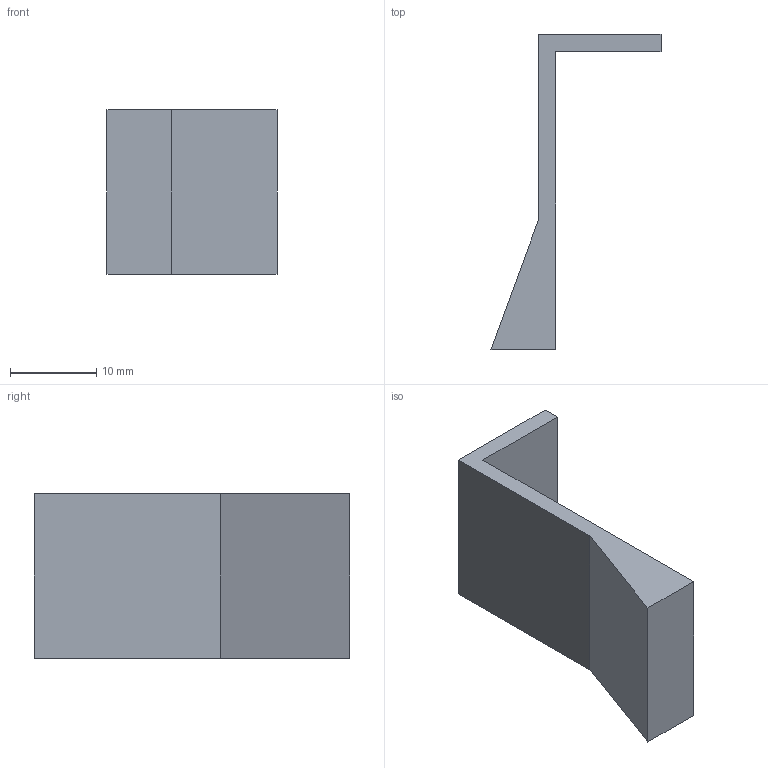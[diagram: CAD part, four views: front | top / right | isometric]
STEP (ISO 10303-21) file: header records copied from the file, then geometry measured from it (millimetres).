
FILE_DESCRIPTION (( 'STEP AP203' ), '1' );
FILE_NAME ('BATTERY_HOLDER_HOLDER.STEP', '2021-09-09T14:52:02', ( '' ), ( '' ), 'SwSTEP 2.0', 'SolidWorks 2020', '' );
FILE_SCHEMA (( 'CONFIG_CONTROL_DESIGN' ));
Length unit declared in the file: millimetre
Products named in the file (1): BATTERY_HOLDER_HOLDER
Bounding box: 19.69 x 36.5 x 19 mm (x, y, z)
Volume: 2634 mm3; surface area: 2326.5 mm2
Topology: 1 solids, 1 shells, 9 faces, 21 edges, 14 vertices
Faces by surface type: plane 9
Entity records: 332 total; most frequent: CARTESIAN_POINT 45, ORIENTED_EDGE 42, DIRECTION 41, LINE 21, EDGE_CURVE 21, VECTOR 21, VERTEX_POINT 14, AXIS2_PLACEMENT_3D 10
